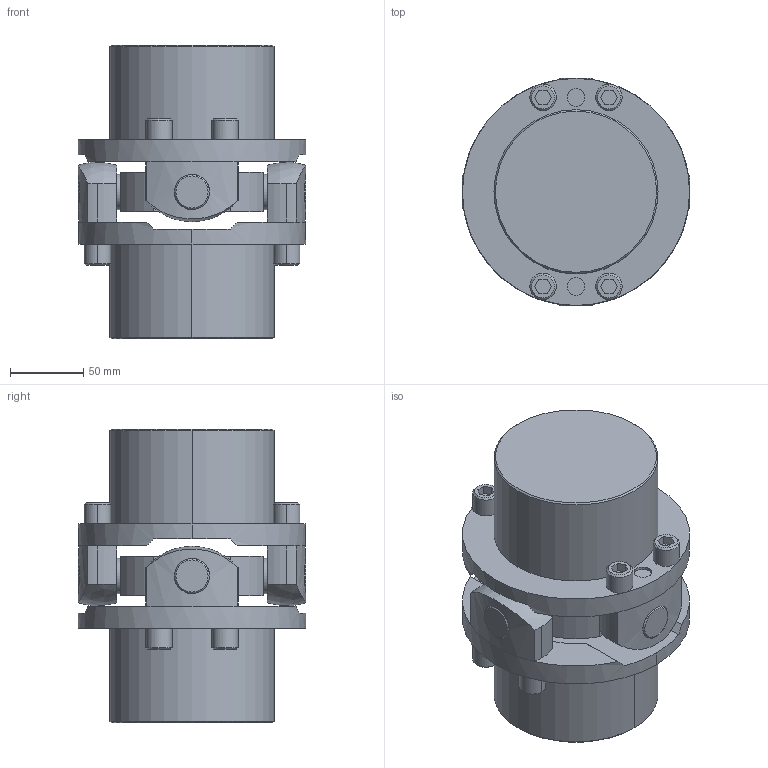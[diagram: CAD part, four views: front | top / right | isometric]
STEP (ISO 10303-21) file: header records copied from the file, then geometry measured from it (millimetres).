
FILE_DESCRIPTION((''),'2;1');
FILE_NAME('UCR-155.stp','2013-05-13T10:03:01',(''),(''),'AutoCAD STEP 2000i','AutoCAD 2000i',', , ');
FILE_SCHEMA(('CONFIG_CONTROL_DESIGN'));
Length unit declared in the file: millimetre
Products named in the file (7): UCR-155; 忣兜1; UCR-15502; UCNF-15502; UCN155-B045-1; UCN155-B045; UCN155-SEN
Assembly tree (6 placements, depth 2):
  UCR-155
    忣兜1
    UCR-15502
    UCNF-15502
    UCN155-B045-1
    UCN155-B045
    UCN155-SEN
Bounding box: 155 x 155 x 200 mm (x, y, z)
Volume: 2077162.7 mm3; surface area: 187735.7 mm2
Topology: 1 solids, 1 shells, 210 faces, 517 edges, 346 vertices
Faces by surface type: plane 100, cylinder 78, cone 28, sphere 4
Entity records: 6806 total; most frequent: CARTESIAN_POINT 1469, DIRECTION 1155, ORIENTED_EDGE 1020, EDGE_CURVE 510, AXIS2_PLACEMENT_3D 433, VERTEX_POINT 332, VECTOR 289, LINE 289
